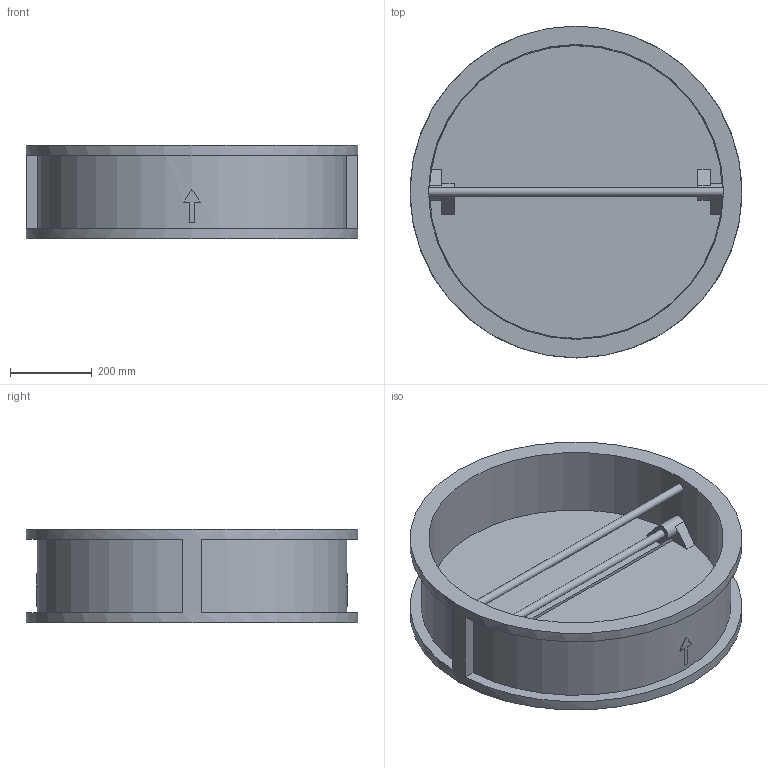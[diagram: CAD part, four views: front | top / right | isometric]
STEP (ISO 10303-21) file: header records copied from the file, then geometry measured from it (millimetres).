
FILE_DESCRIPTION(('STEP AP203'), '1');
FILE_NAME('孰囡囗 钺疣蝽 溻篚耱忸瘅囹 戾骠豚眦邂 010C DN700', '', ('UNSPECIFIED'), ('UNSPECIFIED'), 'ASCON STEP Converter 1.6', 'ASCON Math Kernel', '');
FILE_SCHEMA(('CONFIG_CONTROL_DESIGN'));
Length unit declared in the file: millimetre
Bounding box: 810 x 810 x 229 mm (x, y, z)
Volume: 22696989.3 mm3; surface area: 2426750.1 mm2
Topology: 1 solids, 1 shells, 73 faces, 201 edges, 132 vertices
Faces by surface type: plane 55, cylinder 16, cone 2
Full cylindrical faces by diameter (mm): 20 x4, 720 x1, 810 x1
Entity records: 4205 total; most frequent: CARTESIAN_POINT 1748, ORIENTED_EDGE 388, DIRECTION 360, EDGE_CURVE 194, VERTEX_POINT 132, LINE 124, VECTOR 124, AXIS2_PLACEMENT_3D 118
